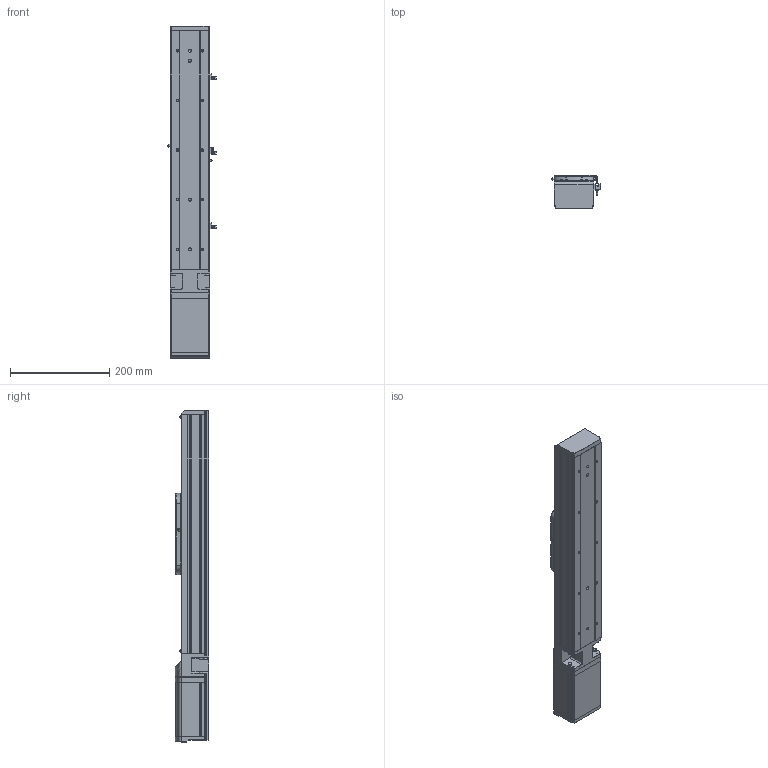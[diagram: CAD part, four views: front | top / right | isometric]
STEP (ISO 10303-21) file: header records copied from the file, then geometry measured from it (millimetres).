
FILE_DESCRIPTION (( 'STEP AP203' ), '1' );
FILE_NAME ('GERC80-300-ND-DL.STEP', '2020-04-27T08:13:16', ( '' ), ( '' ), 'SwSTEP 2.0', 'SolidWorks 2019', '' );
FILE_SCHEMA (( 'CONFIG_CONTROL_DESIGN' ));
Length unit declared in the file: millimetre
Products named in the file (3): Group1^GERC80-300-ND-DL_defeature_GMT; Group2^GERC80-300-ND-DL_defeature_GMT; GERC80-300-ND-DL
Assembly tree (2 placements, depth 2):
  GERC80-300-ND-DL
    Group1^GERC80-300-ND-DL_defeature_GMT
    Group2^GERC80-300-ND-DL_defeature_GMT
Bounding box: 98.4 x 67.5 x 669 mm (x, y, z)
Volume: 1970345.2 mm3; surface area: 500920.6 mm2
Topology: 31 solids, 31 shells, 3918 faces, 10373 edges, 6504 vertices
Faces by surface type: plane 1375, cylinder 1188, cone 985, bspline 193, torus 101, sphere 76
Entity records: 146764 total; most frequent: CARTESIAN_POINT 49097, DIRECTION 21088, ORIENTED_EDGE 20520, EDGE_CURVE 10260, AXIS2_PLACEMENT_3D 8005, VERTEX_POINT 6466, VECTOR 5078, LINE 5078
